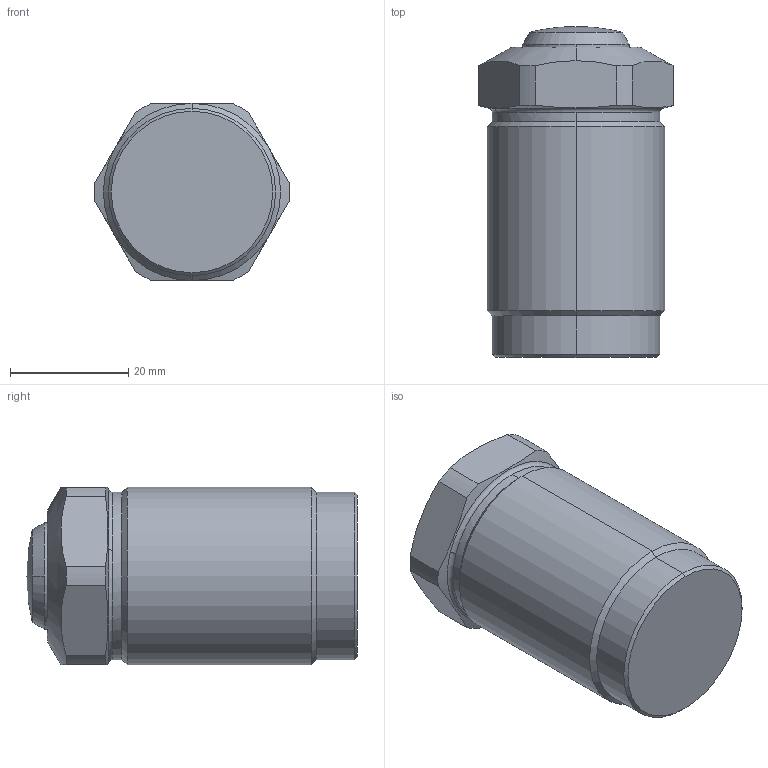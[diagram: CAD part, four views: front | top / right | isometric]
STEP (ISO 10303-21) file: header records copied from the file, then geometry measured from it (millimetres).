
FILE_DESCRIPTION((' '),'2;1');
FILE_NAME( 'CMC06-15R.X_T.stp', '2024-08-27T13:58:38', (' '), ('--- Datakit www.datakit.com---'), ' Datakit CrossCadWare V2024.1 Dec 21 2023', 'Mastercam 2025', ' ');
FILE_SCHEMA(('AUTOMOTIVE_DESIGN { 1 0 10303 214 1 1 1 1 }'));
Length unit declared in the file: millimetre
Products named in the file (1): CMC06-15R
Bounding box: 32.98 x 56 x 30 mm (x, y, z)
Volume: 37081 mm3; surface area: 8581.3 mm2
Topology: 2 solids, 2 shells, 42 faces, 102 edges, 63 vertices
Faces by surface type: cylinder 16, cone 12, plane 10, torus 2, sphere 2
Entity records: 1332 total; most frequent: CARTESIAN_POINT 322, DIRECTION 220, ORIENTED_EDGE 200, EDGE_CURVE 100, AXIS2_PLACEMENT_3D 93, VERTEX_POINT 63, CIRCLE 50, EDGE_LOOP 43
